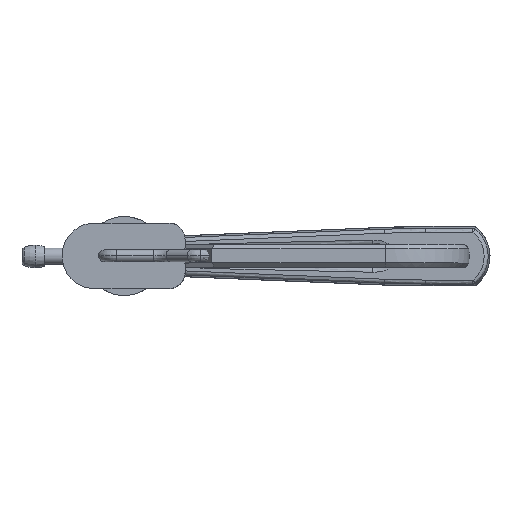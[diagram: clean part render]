
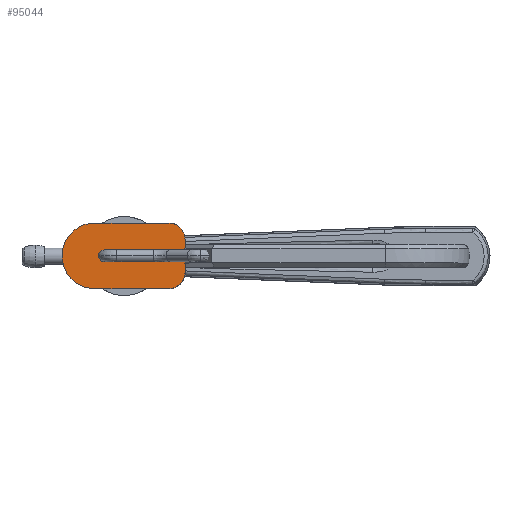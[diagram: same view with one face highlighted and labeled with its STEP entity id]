
A CAD part, top view. The second image highlights one B-rep face of the part: STEP entity #95044.
In plain terms, the highlighted free-form (B-spline) face has degree [1, 1] with [2, 2] control points.
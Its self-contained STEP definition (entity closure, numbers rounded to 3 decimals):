
#94989=CARTESIAN_POINT('',(-187.349,-19.,13.67));
#94990=CARTESIAN_POINT('',(-187.349,47.,13.67));
#94991=CARTESIAN_POINT('',(-121.359,-19.,14.822));
#94992=CARTESIAN_POINT('',(-121.359,47.,14.822));
#94993=B_SPLINE_SURFACE_WITH_KNOTS('',1,1,((#94989,#94990),(#94991,#94992)),.PLANE_SURF.,.F.,.F.,.U.,(2,2),(2,2),(0.,1.),(0.,1.),.UNSPECIFIED.);
#94994=CARTESIAN_POINT('',(-124.359,8.,14.77));
#94995=VERTEX_POINT('',#94994);
#94996=CARTESIAN_POINT('',(-132.357,16.,14.63));
#94997=VERTEX_POINT('',#94996);
#94998=CARTESIAN_POINT('',(-124.359,8.,14.77));
#94999=CARTESIAN_POINT('',(-124.359,11.314,14.77));
#95000=CARTESIAN_POINT('',(-129.044,16.,14.688));
#95001=CARTESIAN_POINT('',(-132.357,16.,14.63));
#95002=(BOUNDED_CURVE()B_SPLINE_CURVE(2,(#94998,#94999,#95000,#95001),.CIRCULAR_ARC.,.F.,.U.)B_SPLINE_CURVE_WITH_KNOTS((3,1,3),(0.,0.5,1.),.UNSPECIFIED.)CURVE()GEOMETRIC_REPRESENTATION_ITEM()RATIONAL_B_SPLINE_CURVE((1.,0.854,0.854,1.))REPRESENTATION_ITEM(''));
#95003=EDGE_CURVE('',#94995,#94997,#95002,.T.);
#95004=ORIENTED_EDGE('',*,*,#95003,.T.);
#95005=CARTESIAN_POINT('',(-168.352,16.,14.002));
#95006=VERTEX_POINT('',#95005);
#95007=CARTESIAN_POINT('',(-132.357,16.,14.63));
#95008=CARTESIAN_POINT('',(-168.352,16.,14.002));
#95009=B_SPLINE_CURVE_WITH_KNOTS('',1,(#95007,#95008),.POLYLINE_FORM.,.F.,.U.,(2,2),(0.167,0.712),.UNSPECIFIED.);
#95010=EDGE_CURVE('',#94997,#95006,#95009,.T.);
#95011=ORIENTED_EDGE('',*,*,#95010,.T.);
#95012=CARTESIAN_POINT('',(-168.352,-16.,14.002));
#95013=VERTEX_POINT('',#95012);
#95014=CARTESIAN_POINT('',(-168.352,16.,14.002));
#95015=CARTESIAN_POINT('',(-184.35,16.,13.722));
#95016=CARTESIAN_POINT('',(-184.35,0.,13.722));
#95017=CARTESIAN_POINT('',(-184.35,-16.,13.722));
#95018=CARTESIAN_POINT('',(-168.352,-16.,14.002));
#95019=(BOUNDED_CURVE()B_SPLINE_CURVE(2,(#95014,#95015,#95016,#95017,#95018),.CIRCULAR_ARC.,.F.,.U.)B_SPLINE_CURVE_WITH_KNOTS((3,2,3),(0.,0.5,1.),.UNSPECIFIED.)CURVE()GEOMETRIC_REPRESENTATION_ITEM()RATIONAL_B_SPLINE_CURVE((1.,0.707,1.,0.707,1.))REPRESENTATION_ITEM(''));
#95020=EDGE_CURVE('',#95006,#95013,#95019,.T.);
#95021=ORIENTED_EDGE('',*,*,#95020,.T.);
#95022=CARTESIAN_POINT('',(-132.357,-16.,14.63));
#95023=VERTEX_POINT('',#95022);
#95024=CARTESIAN_POINT('',(-168.352,-16.,14.002));
#95025=CARTESIAN_POINT('',(-132.357,-16.,14.63));
#95026=B_SPLINE_CURVE_WITH_KNOTS('',1,(#95024,#95025),.POLYLINE_FORM.,.F.,.U.,(2,2),(0.288,0.833),.UNSPECIFIED.);
#95027=EDGE_CURVE('',#95013,#95023,#95026,.T.);
#95028=ORIENTED_EDGE('',*,*,#95027,.T.);
#95029=CARTESIAN_POINT('',(-124.359,-8.,14.77));
#95030=VERTEX_POINT('',#95029);
#95031=CARTESIAN_POINT('',(-132.357,-16.,14.63));
#95032=CARTESIAN_POINT('',(-124.359,-16.,14.77));
#95033=CARTESIAN_POINT('',(-124.359,-8.,14.77));
#95034=(BOUNDED_CURVE()B_SPLINE_CURVE(2,(#95031,#95032,#95033),.CIRCULAR_ARC.,.F.,.U.)B_SPLINE_CURVE_WITH_KNOTS((3,3),(0.,1.),.UNSPECIFIED.)CURVE()GEOMETRIC_REPRESENTATION_ITEM()RATIONAL_B_SPLINE_CURVE((1.,0.707,1.))REPRESENTATION_ITEM(''));
#95035=EDGE_CURVE('',#95023,#95030,#95034,.T.);
#95036=ORIENTED_EDGE('',*,*,#95035,.T.);
#95037=CARTESIAN_POINT('',(-124.359,-8.,14.77));
#95038=CARTESIAN_POINT('',(-124.359,8.,14.77));
#95039=B_SPLINE_CURVE_WITH_KNOTS('',1,(#95037,#95038),.POLYLINE_FORM.,.F.,.U.,(2,2),(0.167,0.409),.UNSPECIFIED.);
#95040=EDGE_CURVE('',#95030,#94995,#95039,.T.);
#95041=ORIENTED_EDGE('',*,*,#95040,.T.);
#95042=EDGE_LOOP('',(#95004,#95011,#95021,#95028,#95036,#95041));
#95043=FACE_OUTER_BOUND('',#95042,.T.);
#95044=ADVANCED_FACE('',(#95043),#94993,.T.);
